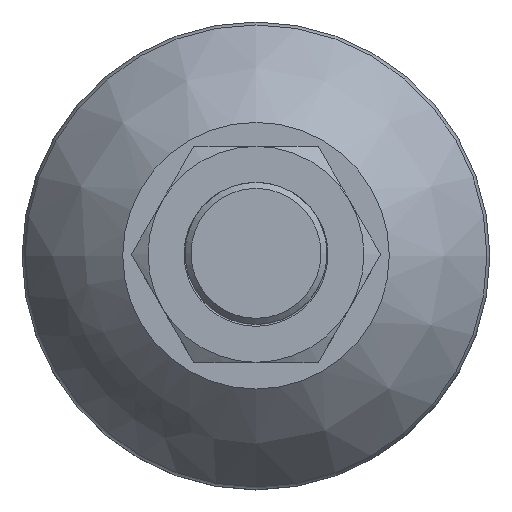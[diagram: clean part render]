
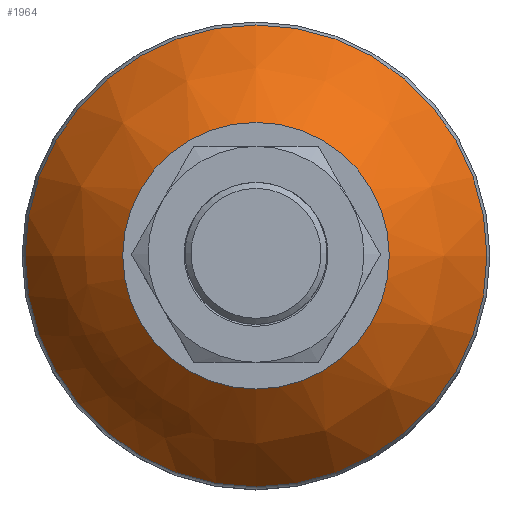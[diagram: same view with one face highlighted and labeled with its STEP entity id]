
A CAD part, top view. The second image highlights one B-rep face of the part: STEP entity #1964.
In plain terms, the highlighted free-form (B-spline) face has degree [2, 2] with [3, 9] control points.
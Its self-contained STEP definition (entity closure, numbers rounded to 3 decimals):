
#131=(
BOUNDED_SURFACE()
B_SPLINE_SURFACE(2,2,((#4449,#4450,#4451,#4452,#4453,#4454,#4455,#4456,
#4457),(#4458,#4459,#4460,#4461,#4462,#4463,#4464,#4465,#4466),(#4467,#4468,
#4469,#4470,#4471,#4472,#4473,#4474,#4475)),.UNSPECIFIED.,.F.,.T.,.F.)
B_SPLINE_SURFACE_WITH_KNOTS((3,3),(3,2,2,2,3),(0.503,0.909),
(-3.142,-1.571,0.,1.571,3.142),
 .UNSPECIFIED.)
GEOMETRIC_REPRESENTATION_ITEM()
RATIONAL_B_SPLINE_SURFACE(((1.,0.707,1.,0.707,1.,
0.707,1.,0.707,1.),(0.979,0.693,
0.979,0.693,0.979,0.693,
0.979,0.693,0.979),(1.,0.707,
1.,0.707,1.,0.707,1.,0.707,1.)))
REPRESENTATION_ITEM('')
SURFACE()
);
#383=FACE_OUTER_BOUND('',#519,.T.);
#519=EDGE_LOOP('',(#1770,#1771,#1772,#1773));
#760=CIRCLE('',#2209,11.113);
#761=CIRCLE('',#2210,31.093);
#762=CIRCLE('',#2211,19.252);
#943=VERTEX_POINT('',#4476);
#944=VERTEX_POINT('',#4478);
#1223=EDGE_CURVE('',#943,#943,#760,.T.);
#1224=EDGE_CURVE('',#943,#944,#761,.T.);
#1225=EDGE_CURVE('',#944,#944,#762,.T.);
#1770=ORIENTED_EDGE('',*,*,#1223,.T.);
#1771=ORIENTED_EDGE('',*,*,#1224,.T.);
#1772=ORIENTED_EDGE('',*,*,#1225,.T.);
#1773=ORIENTED_EDGE('',*,*,#1224,.F.);
#1964=ADVANCED_FACE('',(#383),#131,.F.);
#2209=AXIS2_PLACEMENT_3D('',#4477,#2684,#2685);
#2210=AXIS2_PLACEMENT_3D('',#4479,#2686,#2687);
#2211=AXIS2_PLACEMENT_3D('',#4480,#2688,#2689);
#2684=DIRECTION('center_axis',(0.,0.,-1.));
#2685=DIRECTION('ref_axis',(1.,0.,0.));
#2686=DIRECTION('center_axis',(0.,-1.,0.));
#2687=DIRECTION('ref_axis',(-1.,0.,0.));
#2688=DIRECTION('center_axis',(0.,0.,1.));
#2689=DIRECTION('ref_axis',(1.,0.,0.));
#4449=CARTESIAN_POINT('Ctrl Pts',(-19.252,0.,
12.459));
#4450=CARTESIAN_POINT('Ctrl Pts',(-19.252,-19.252,12.459));
#4451=CARTESIAN_POINT('Ctrl Pts',(0.,-19.252,
12.459));
#4452=CARTESIAN_POINT('Ctrl Pts',(19.252,-19.252,12.459));
#4453=CARTESIAN_POINT('Ctrl Pts',(19.252,0.,
12.459));
#4454=CARTESIAN_POINT('Ctrl Pts',(19.252,19.252,12.459));
#4455=CARTESIAN_POINT('Ctrl Pts',(0.,19.252,
12.459));
#4456=CARTESIAN_POINT('Ctrl Pts',(-19.252,19.252,12.459));
#4457=CARTESIAN_POINT('Ctrl Pts',(-19.252,0.,
12.459));
#4458=CARTESIAN_POINT('Ctrl Pts',(-16.165,0.,
18.068));
#4459=CARTESIAN_POINT('Ctrl Pts',(-16.165,-16.165,18.068));
#4460=CARTESIAN_POINT('Ctrl Pts',(0.,-16.165,
18.068));
#4461=CARTESIAN_POINT('Ctrl Pts',(16.165,-16.165,18.068));
#4462=CARTESIAN_POINT('Ctrl Pts',(16.165,0.,
18.068));
#4463=CARTESIAN_POINT('Ctrl Pts',(16.165,16.165,18.068));
#4464=CARTESIAN_POINT('Ctrl Pts',(0.,16.165,
18.068));
#4465=CARTESIAN_POINT('Ctrl Pts',(-16.165,16.165,18.068));
#4466=CARTESIAN_POINT('Ctrl Pts',(-16.165,0.,
18.068));
#4467=CARTESIAN_POINT('Ctrl Pts',(-11.113,0.,
22.));
#4468=CARTESIAN_POINT('Ctrl Pts',(-11.113,-11.113,22.));
#4469=CARTESIAN_POINT('Ctrl Pts',(0.,-11.113,
22.));
#4470=CARTESIAN_POINT('Ctrl Pts',(11.113,-11.113,22.));
#4471=CARTESIAN_POINT('Ctrl Pts',(11.113,0.,
22.));
#4472=CARTESIAN_POINT('Ctrl Pts',(11.113,11.113,22.));
#4473=CARTESIAN_POINT('Ctrl Pts',(0.,11.113,
22.));
#4474=CARTESIAN_POINT('Ctrl Pts',(-11.113,11.113,22.));
#4475=CARTESIAN_POINT('Ctrl Pts',(-11.113,0.,
22.));
#4476=CARTESIAN_POINT('',(-11.113,0.,22.));
#4477=CARTESIAN_POINT('Origin',(0.,0.,
22.));
#4478=CARTESIAN_POINT('',(-19.252,0.,12.459));
#4479=CARTESIAN_POINT('Origin',(7.986,0.,-2.535));
#4480=CARTESIAN_POINT('Origin',(0.,0.,
12.459));
